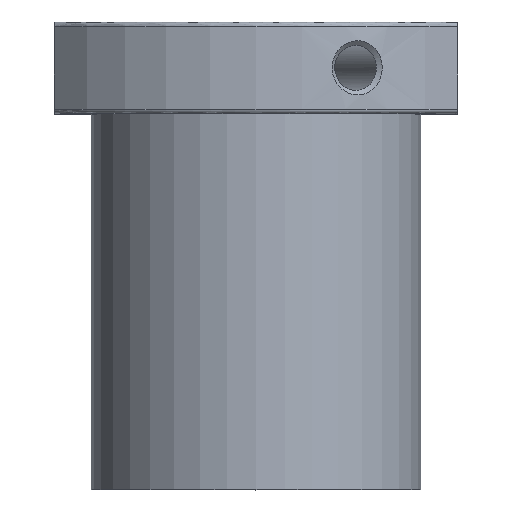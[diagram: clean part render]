
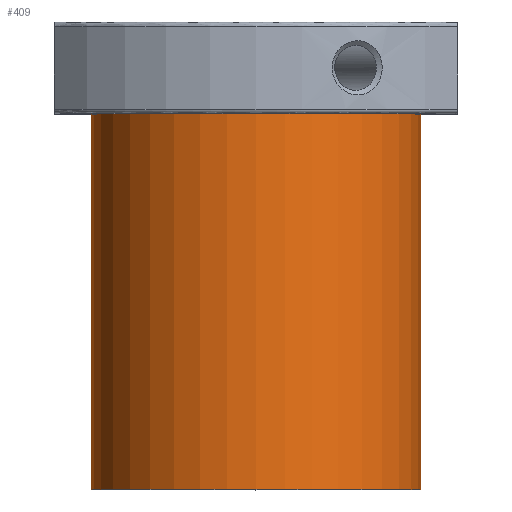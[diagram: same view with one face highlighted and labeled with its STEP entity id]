
A CAD part, top view. The second image highlights one B-rep face of the part: STEP entity #409.
In plain terms, the highlighted cylindrical face has radius 18 mm (diameter 36 mm), a full revolution.
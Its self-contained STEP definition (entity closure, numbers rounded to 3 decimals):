
#43=CYLINDRICAL_SURFACE('',#474,18.);
#62=LINE('',#907,#81);
#81=VECTOR('',#587,18.);
#107=FACE_OUTER_BOUND('',#138,.T.);
#138=EDGE_LOOP('',(#370,#371,#372,#373));
#170=CIRCLE('',#473,18.);
#171=CIRCLE('',#475,18.);
#218=VERTEX_POINT('',#902);
#219=VERTEX_POINT('',#905);
#272=EDGE_CURVE('',#218,#218,#170,.T.);
#273=EDGE_CURVE('',#219,#219,#171,.T.);
#274=EDGE_CURVE('',#219,#218,#62,.T.);
#370=ORIENTED_EDGE('',*,*,#273,.F.);
#371=ORIENTED_EDGE('',*,*,#274,.T.);
#372=ORIENTED_EDGE('',*,*,#272,.T.);
#373=ORIENTED_EDGE('',*,*,#274,.F.);
#409=ADVANCED_FACE('',(#107),#43,.T.);
#473=AXIS2_PLACEMENT_3D('',#903,#581,#582);
#474=AXIS2_PLACEMENT_3D('',#904,#583,#584);
#475=AXIS2_PLACEMENT_3D('',#906,#585,#586);
#581=DIRECTION('center_axis',(0.,1.,0.));
#582=DIRECTION('ref_axis',(1.,0.,0.));
#583=DIRECTION('center_axis',(0.,1.,0.));
#584=DIRECTION('ref_axis',(0.,0.,1.));
#585=DIRECTION('center_axis',(0.,1.,0.));
#586=DIRECTION('ref_axis',(1.,0.,0.));
#587=DIRECTION('',(0.,-1.,0.));
#902=CARTESIAN_POINT('',(0.,-51.,-18.));
#903=CARTESIAN_POINT('Origin',(0.,-51.,0.));
#904=CARTESIAN_POINT('Origin',(0.,-30.5,0.));
#905=CARTESIAN_POINT('',(0.,-10.,-18.));
#906=CARTESIAN_POINT('Origin',(0.,-10.,0.));
#907=CARTESIAN_POINT('',(0.,-30.5,-18.));
